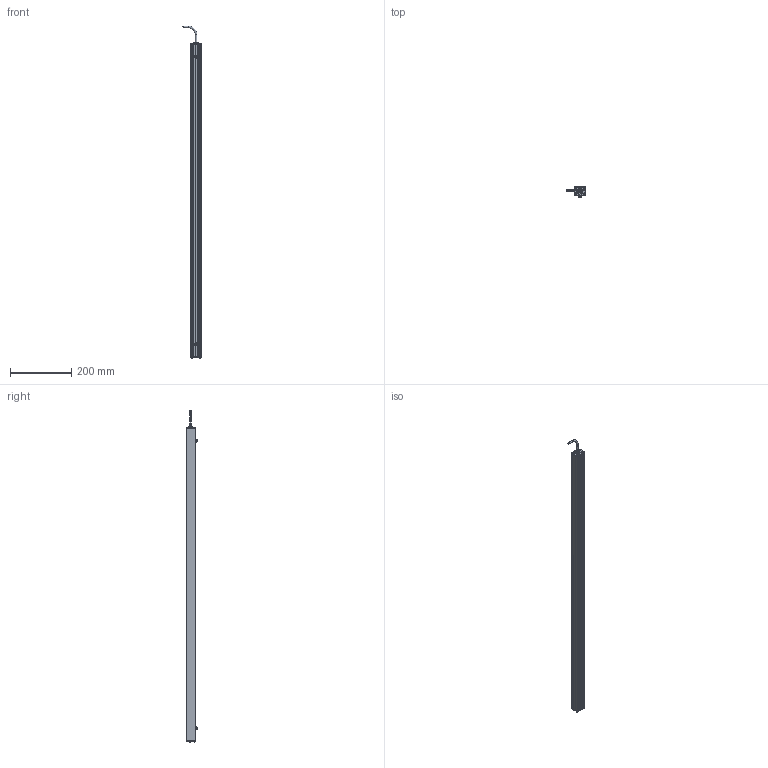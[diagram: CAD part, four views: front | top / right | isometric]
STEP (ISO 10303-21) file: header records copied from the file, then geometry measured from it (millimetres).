
FILE_DESCRIPTION (( 'STEP AP214' ), '1' );
FILE_NAME ('AL150XXXX_AL150234.stp', '2021-04-29T15:41:27', ( '' ), ( '' ), 'SwSTEP 2.0', 'SolidWorks 2018', '' );
FILE_SCHEMA (( 'AUTOMOTIVE_DESIGN' ));
Length unit declared in the file: inch
Products named in the file (12): Part2^AL150XXXX; 150-01-005-XXX_150-01-005-234; Part1^AL150XXXX; 150-03-006-XXXX_150-03-006-234; 092408_TRUNCATED; HN-M6_90592A016; 116-02-006; 1157 (no strap); 093145_93701A253; 116-02-007; CHM6x8_91460A312; AL150XXXX_AL150234
Assembly tree (18 placements, depth 2):
  Part2^AL150XXXX
  Part1^AL150XXXX
  AL150XXXX_AL150234
    150-01-005-XXX_150-01-005-234
    116-02-006
    093145_93701A253  x8
    HN-M6_90592A016  x2
    CHM6x8_91460A312  x2
    150-03-006-XXXX_150-03-006-234
    116-02-007
    1157 (no strap)
    092408_TRUNCATED
Bounding box: 60.68 x 33.84 x 1086.15 mm (x, y, z)
Volume: 320775.3 mm3; surface area: 340570.4 mm2
Topology: 26 solids, 26 shells, 1306 faces, 3436 edges, 2127 vertices
Faces by surface type: cylinder 805, cone 249, plane 153, torus 59, bspline 32, sphere 8
Entity records: 18285 total; most frequent: CARTESIAN_POINT 6069, ORIENTED_EDGE 2496, DIRECTION 2311, EDGE_CURVE 1248, AXIS2_PLACEMENT_3D 881, VERTEX_POINT 800, VECTOR 549, LINE 549
